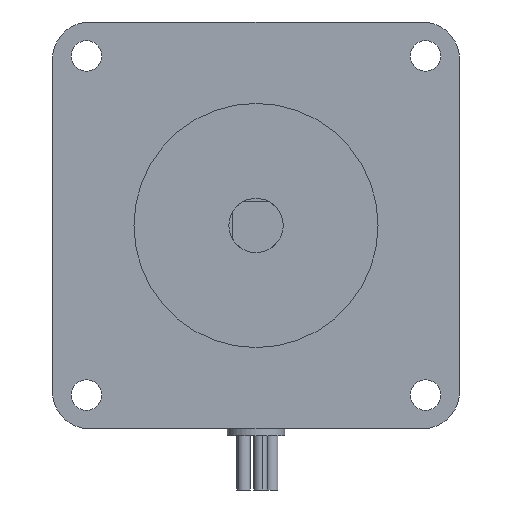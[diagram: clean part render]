
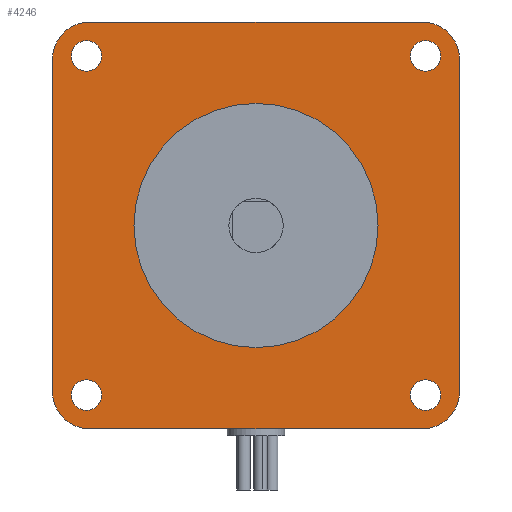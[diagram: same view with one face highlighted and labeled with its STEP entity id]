
A CAD part, front view. The second image highlights one B-rep face of the part: STEP entity #4246.
In plain terms, the highlighted planar face has unit normal (0, -1, 0).
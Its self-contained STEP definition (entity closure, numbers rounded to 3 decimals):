
#3804=CARTESIAN_POINT('POINT140001',(24.5,0.,
   30.));
#3805=VERTEX_POINT('VERTEX140001',#3804);
#3812=CARTESIAN_POINT('POINT140002',(30.,0.,
   24.5));
#3813=VERTEX_POINT('VERTEX140002',#3812);
#3814=CARTESIAN_POINT('POS235536',(24.5,0.,
   24.5));
#3815=DIRECTION('DIR352537',(0.,1.,
   0.));
#3816=DIRECTION('DIR352538',(0.,0.
   ,1.));
#3817=AXIS2_PLACEMENT_3D('AXIS117002',#3814,#3815,#3816);
#3818=CIRCLE('ELLIPSE54381',#3817,5.5);
#3819=EDGE_CURVE('EDGE217329',#3805,#3813,#3818,.T.);
#3841=CARTESIAN_POINT('POINT140003',(30.,0.,
   -24.5));
#3842=VERTEX_POINT('VERTEX140003',#3841);
#3843=CARTESIAN_POINT('POS235539',(30.,0.,
   24.5));
#3844=DIRECTION('DIR352542',(0.,
   0.,-1.));
#3845=VECTOR('VEC118536',#3844,1.);
#3846=LINE('STRAIGHT118536',#3843,#3845);
#3847=EDGE_CURVE('EDGE217331',#3813,#3842,#3846,.T.);
#3865=CARTESIAN_POINT('POINT140004',(24.5,0.,
   -30.));
#3866=VERTEX_POINT('VERTEX140004',#3865);
#3867=CARTESIAN_POINT('POS235542',(24.5,0.,
   -24.5));
#3868=DIRECTION('DIR352546',(0.,1.,
   0.));
#3869=DIRECTION('DIR352547',(1.,0.,0.));
#3870=AXIS2_PLACEMENT_3D('AXIS117005',#3867,#3868,#3869);
#3871=CIRCLE('ELLIPSE54382',#3870,5.5);
#3872=EDGE_CURVE('EDGE217333',#3842,#3866,#3871,.T.);
#3894=CARTESIAN_POINT('POINT140005',(-24.5,0.,
   -30.));
#3895=VERTEX_POINT('VERTEX140005',#3894);
#3896=CARTESIAN_POINT('POS235545',(24.5,0.,
   -30.));
#3897=DIRECTION('DIR352551',(-1.,0.,
   0.));
#3898=VECTOR('VEC118539',#3897,1.);
#3899=LINE('STRAIGHT118539',#3896,#3898);
#3900=EDGE_CURVE('EDGE217335',#3866,#3895,#3899,.T.);
#3918=CARTESIAN_POINT('POINT140006',(-30.,0.,
   -24.5));
#3919=VERTEX_POINT('VERTEX140006',#3918);
#3920=CARTESIAN_POINT('POS235548',(-24.5,0.,
   -24.5));
#3921=DIRECTION('DIR352555',(0.,1.,
   0.));
#3922=DIRECTION('DIR352556',(0.,
   0.,-1.));
#3923=AXIS2_PLACEMENT_3D('AXIS117008',#3920,#3921,#3922);
#3924=CIRCLE('ELLIPSE54383',#3923,5.5);
#3925=EDGE_CURVE('EDGE217337',#3895,#3919,#3924,.T.);
#3947=CARTESIAN_POINT('POINT140007',(-30.,0.,
   24.5));
#3948=VERTEX_POINT('VERTEX140007',#3947);
#3949=CARTESIAN_POINT('POS235551',(-30.,0.,
   -24.5));
#3950=DIRECTION('DIR352560',(0.,0.
   ,1.));
#3951=VECTOR('VEC118542',#3950,1.);
#3952=LINE('STRAIGHT118542',#3949,#3951);
#3953=EDGE_CURVE('EDGE217339',#3919,#3948,#3952,.T.);
#3971=CARTESIAN_POINT('POINT140008',(-24.5,0.,
   30.));
#3972=VERTEX_POINT('VERTEX140008',#3971);
#3973=CARTESIAN_POINT('POS235554',(-24.5,0.,
   24.5));
#3974=DIRECTION('DIR352564',(0.,1.,
   0.));
#3975=DIRECTION('DIR352565',(-1.,0.,0.));
#3976=AXIS2_PLACEMENT_3D('AXIS117011',#3973,#3974,#3975);
#3977=CIRCLE('ELLIPSE54384',#3976,5.5);
#3978=EDGE_CURVE('EDGE217341',#3948,#3972,#3977,.T.);
#4000=CARTESIAN_POINT('POS235557',(0.,
   0.,30.));
#4001=DIRECTION('DIR352569',(1.,0.,0.));
#4002=VECTOR('VEC118545',#4001,1.);
#4003=LINE('STRAIGHT118545',#4000,#4002);
#4004=EDGE_CURVE('EDGE217343',#3972,#3805,#4003,.T.);
#4015=CARTESIAN_POINT('POINT140009',(-25.,0.,
   22.75));
#4016=VERTEX_POINT('VERTEX140009',#4015);
#4023=CARTESIAN_POINT('POINT140010',(-25.,0.,
   27.25));
#4024=VERTEX_POINT('VERTEX140010',#4023);
#4025=CARTESIAN_POINT('POS235560',(-25.,0.,
   25.));
#4026=DIRECTION('DIR352573',(0.,1.,
   0.));
#4027=DIRECTION('DIR352574',(0.,0.,-1.))
   ;
#4028=AXIS2_PLACEMENT_3D('AXIS117014',#4025,#4026,#4027);
#4029=CIRCLE('ELLIPSE54385',#4028,2.25);
#4030=EDGE_CURVE('EDGE217345',#4024,#4016,#4029,.T.);
#4050=EDGE_CURVE('EDGE217347',#4016,#4024,#4029,.T.);
#4055=CARTESIAN_POINT('POINT140011',(25.,0.,
   22.75));
#4056=VERTEX_POINT('VERTEX140011',#4055);
#4063=CARTESIAN_POINT('POINT140012',(25.,0.,
   27.25));
#4064=VERTEX_POINT('VERTEX140012',#4063);
#4065=CARTESIAN_POINT('POS235564',(25.,0.,
   25.));
#4066=DIRECTION('DIR352579',(0.,1.,
   0.));
#4067=DIRECTION('DIR352580',(0.,0.,-1.))
   ;
#4068=AXIS2_PLACEMENT_3D('AXIS117016',#4065,#4066,#4067);
#4069=CIRCLE('ELLIPSE54386',#4068,2.25);
#4070=EDGE_CURVE('EDGE217349',#4064,#4056,#4069,.T.);
#4090=EDGE_CURVE('EDGE217351',#4056,#4064,#4069,.T.);
#4095=CARTESIAN_POINT('POINT140013',(-25.,0.,
   -27.25));
#4096=VERTEX_POINT('VERTEX140013',#4095);
#4103=CARTESIAN_POINT('POINT140014',(-25.,0.,
   -22.75));
#4104=VERTEX_POINT('VERTEX140014',#4103);
#4105=CARTESIAN_POINT('POS235568',(-25.,0.,
   -25.));
#4106=DIRECTION('DIR352585',(0.,1.,
   0.));
#4107=DIRECTION('DIR352586',(0.,0.,-1.))
   ;
#4108=AXIS2_PLACEMENT_3D('AXIS117018',#4105,#4106,#4107);
#4109=CIRCLE('ELLIPSE54387',#4108,2.25);
#4110=EDGE_CURVE('EDGE217353',#4104,#4096,#4109,.T.);
#4130=EDGE_CURVE('EDGE217355',#4096,#4104,#4109,.T.);
#4135=CARTESIAN_POINT('POINT140015',(25.,0.,
   -27.25));
#4136=VERTEX_POINT('VERTEX140015',#4135);
#4143=CARTESIAN_POINT('POINT140016',(25.,0.,
   -22.75));
#4144=VERTEX_POINT('VERTEX140016',#4143);
#4145=CARTESIAN_POINT('POS235572',(25.,0.,
   -25.));
#4146=DIRECTION('DIR352591',(0.,1.,
   0.));
#4147=DIRECTION('DIR352592',(0.,0.,-1.))
   ;
#4148=AXIS2_PLACEMENT_3D('AXIS117020',#4145,#4146,#4147);
#4149=CIRCLE('ELLIPSE54388',#4148,2.25);
#4150=EDGE_CURVE('EDGE217357',#4144,#4136,#4149,.T.);
#4170=EDGE_CURVE('EDGE217359',#4136,#4144,#4149,.T.);
#4200=ORIENTED_EDGE('COEDGE434837',*,*,#4170,.T.);
#4201=ORIENTED_EDGE('COEDGE434838',*,*,#4150,.T.);
#4202=EDGE_LOOP('NONE',(#4200,#4201));
#4203=FACE_BOUND('LOOP1',#4202,.T.);
#4204=ORIENTED_EDGE('COEDGE434839',*,*,#4130,.T.);
#4205=ORIENTED_EDGE('COEDGE434840',*,*,#4110,.T.);
#4206=EDGE_LOOP('NONE',(#4204,#4205));
#4207=FACE_BOUND('LOOP1',#4206,.T.);
#4208=ORIENTED_EDGE('COEDGE434841',*,*,#4090,.T.);
#4209=ORIENTED_EDGE('COEDGE434842',*,*,#4070,.T.);
#4210=EDGE_LOOP('NONE',(#4208,#4209));
#4211=FACE_BOUND('LOOP1',#4210,.T.);
#4212=ORIENTED_EDGE('COEDGE434843',*,*,#4050,.T.);
#4213=ORIENTED_EDGE('COEDGE434844',*,*,#4030,.T.);
#4214=EDGE_LOOP('NONE',(#4212,#4213));
#4215=FACE_BOUND('LOOP1',#4214,.T.);
#4216=CARTESIAN_POINT('POINT140019',(0.,
   0.,-18.));
#4217=VERTEX_POINT('VERTEX140019',#4216);
#4218=CARTESIAN_POINT('POINT140020',(0.,
   0.,18.));
#4219=VERTEX_POINT('VERTEX140020',#4218);
#4220=CARTESIAN_POINT('POS235577',(0.,0.,0.));
#4221=DIRECTION('DIR352600',(0.,1.,
   0.));
#4222=DIRECTION('DIR352601',(0.,
   0.,-1.));
#4223=AXIS2_PLACEMENT_3D('AXIS117024',#4220,#4221,#4222);
#4224=CIRCLE('ELLIPSE54390',#4223,18.);
#4225=EDGE_CURVE('EDGE217362',#4217,#4219,#4224,.T.);
#4226=ORIENTED_EDGE('COEDGE434845',*,*,#4225,.T.);
#4227=EDGE_CURVE('EDGE217363',#4219,#4217,#4224,.T.);
#4228=ORIENTED_EDGE('COEDGE434846',*,*,#4227,.T.);
#4229=EDGE_LOOP('NONE',(#4226,#4228));
#4230=FACE_BOUND('LOOP1',#4229,.T.);
#4231=ORIENTED_EDGE('COEDGE434847',*,*,#4004,.F.);
#4232=ORIENTED_EDGE('COEDGE434848',*,*,#3978,.F.);
#4233=ORIENTED_EDGE('COEDGE434849',*,*,#3953,.F.);
#4234=ORIENTED_EDGE('COEDGE434850',*,*,#3925,.F.);
#4235=ORIENTED_EDGE('COEDGE434851',*,*,#3900,.F.);
#4236=ORIENTED_EDGE('COEDGE434852',*,*,#3872,.F.);
#4237=ORIENTED_EDGE('COEDGE434853',*,*,#3847,.F.);
#4238=ORIENTED_EDGE('COEDGE434854',*,*,#3819,.F.);
#4239=EDGE_LOOP('NONE',(#4231,#4232,#4233,#4234,#4235,#4236,#4237,#4238)
   );
#4240=FACE_BOUND('LOOP1',#4239,.T.);
#4241=CARTESIAN_POINT('POS235578',(0.,
   0.,0.));
#4242=DIRECTION('DIR352602',(0.,1.,
   0.));
#4243=DIRECTION('DIR352603',(1.,0.,
   0.));
#4244=AXIS2_PLACEMENT_3D('AXIS117025',#4241,#4242,#4243);
#4245=PLANE('PLANE34585',#4244);
#4246=ADVANCED_FACE('FACE87020',(#4203,#4207,#4211,#4215,#4230,#4240),
   #4245,.F.);
